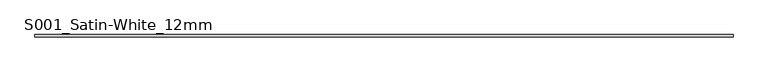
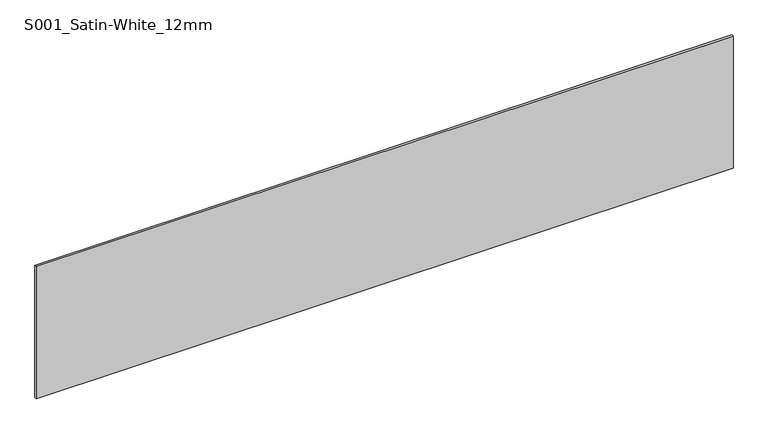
"""IFC4 building model written with IfcOpenShell, lengths in millimetres: plate geometry, Curtain-Panels_Outdoor-Material_HI-MACS_Solids : S001_Satin-White_12mm."""

from ifc_helpers import new_model, si_unit, origin, origin_with_axes, place, context, project, spatial, polyline, outline, extrude, source, transform, mapped, element, save


def s001_satin_white_12mm_af0daad2(model_context):
    return source(origin(), model_context, "Body", "SweptSolid", [
        extrude(outline(polyline([(1840.0, 6.0), (1840.0, -6.0), (-1840.0, -6.0), (-1840.0, 6.0), (1840.0, 6.0)])), origin_with_axes(), (0.0, 0.0, 1.0), 738.1288393),
    ])


if __name__ == "__main__":
    model = new_model("IFC4")
    model_context = context("Model", 3, world=origin())
    ifc_project = project(units=[si_unit("LENGTHUNIT", "METRE", prefix="MILLI")], contexts=[model_context])
    site = spatial("IfcSite", under=ifc_project)
    building = spatial("IfcBuilding", under=site)
    placement = place(None, origin())
    s001_satin_white_12mm_shape = s001_satin_white_12mm_af0daad2(model_context)
    element("IfcPlate", 1, ObjectType="Curtain-Panels_Outdoor-Material_HI-MACS_Solids : S001_Satin-White_12mm", at=placement, inside=building, context=model_context, shape_type="MappedRepresentation", body=[
        mapped(s001_satin_white_12mm_shape, transform((0.0, 0.0, 0.0), x_axis=(1.0, 0.0, 0.0), y_axis=(0.0, 1.0, 0.0), z_axis=(0.0, 0.0, 1.0))),
    ])
    save(model, "model.ifc")
